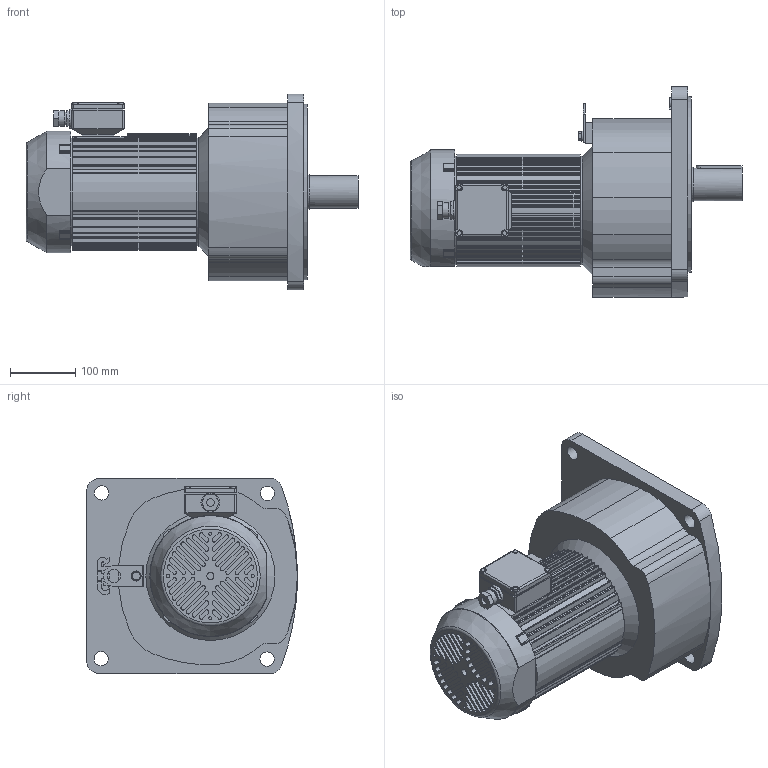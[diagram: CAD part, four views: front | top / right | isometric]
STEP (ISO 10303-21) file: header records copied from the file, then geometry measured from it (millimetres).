
FILE_DESCRIPTION( ( 'STEP AP203' ), ' ' );
FILE_NAME( 'p:/temp/worker_93/3372_3284/app_90_12017041701232975412665260eae72_000000_00_00_000000/format_0/G3F50N100N-IPG220NE().stp', '2017-04-16T23:23:31', ( '' ), ( '' ), ' ', 'PARTsolutions', ' ' );
FILE_SCHEMA( ( 'CONFIG_CONTROL_DESIGN' ) );
Length unit declared in the file: millimetre
Products named in the file (8): G3F50N100N-IPG220NE(); _GF50; _SP050; HI_T220; HI_1522MW; _E-BOX010; _KEY 50; _50-11.5-hook
Assembly tree (7 placements, depth 2):
  G3F50N100N-IPG220NE()
    _GF50
    _SP050
    HI_T220
    HI_1522MW
    _E-BOX010
    _KEY 50
    _50-11.5-hook
Bounding box: 509.5 x 323.5 x 300 mm (x, y, z)
Volume: 17069745.8 mm3; surface area: 793168 mm2
Topology: 7 solids, 7 shells, 809 faces, 2189 edges, 1452 vertices
Faces by surface type: cylinder 416, plane 383, cone 8, torus 2
Full cylindrical faces by diameter (mm): 4.8 x4, 7 x4, 11 x1, 12 x1, 15.4 x1, 20 x1, 21 x1, 22 x4, 24 x1, 29 x1, 50 x1, 53 x1, 120 x1, 167 x2, 250 x1, 270 x1
Entity records: 25949 total; most frequent: CARTESIAN_POINT 4699, DIRECTION 4600, ORIENTED_EDGE 4300, EDGE_CURVE 2150, AXIS2_PLACEMENT_3D 1675, VERTEX_POINT 1442, LINE 1250, VECTOR 1250
